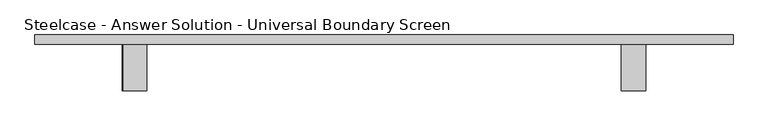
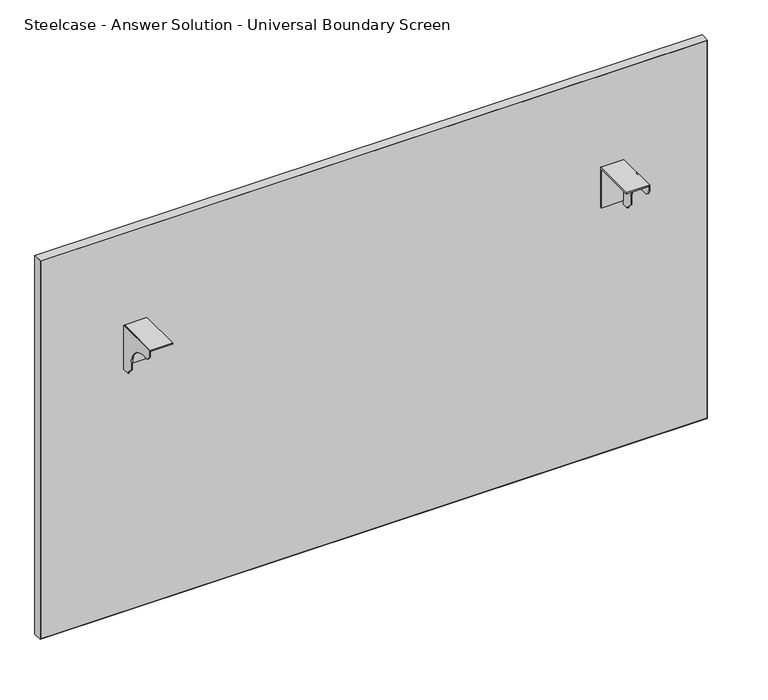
"""IFC4 building model written with IfcOpenShell, lengths in millimetres: furniture geometry, Steelcase - Answer Solution - Universal Boundary Screen : 36H x 60W."""

from ifc_helpers import new_model, si_unit, point, frame, frame_2d, origin, place, context, project, spatial, polyline, circle_curve, trimmed, segment, composite_curve, outline, extrude, source, transform, mapped, element, save


def steelcase_answer_solution_universal_boundary_screen_9d3c16bf(model_context):
    return source(origin(), model_context, "Body", "SweptSolid", [
        extrude(outline(polyline([(-103.1670434, 689.3558876), (-103.1670434, 692.1499758), (-1.5668826, 692.1499758), (-1.5668826, 595.5029317), (-4.1079736, 595.5029317), (-4.1079736, 689.3558876), (-103.1670434, 689.3558876)])), frame((1048.2336711, 0.0, 0.0), z_axis=(1.0, 0.0, 0.0), x_axis=(0.0, 1.0, 0.0)), (0.0, 0.0, 1.0), 53.3444116),
        extrude(outline(composite_curve([segment(polyline([(-103.1670434, 679.2814802), (-103.1670434, 692.1499758), (-1.5668826, 692.1499758), (-1.5668826, 586.9634093), (-19.8232934, 586.9634093), (-19.8232934, 589.7574248), (-32.0458032, 601.9799346), (-32.0458032, 615.7814802)]), True, "CONTINUOUS"), segment(trimmed(circle_curve(frame_2d((-82.8458032, 615.7814802)), 50.8), [point((-32.0458032, 615.7814802))], [point((-82.8458032, 666.5814802))], True, "CARTESIAN"), True, "CONTINUOUS"), segment(polyline([(-82.8458032, 666.5814802), (-90.4670434, 666.5814802)]), True, "CONTINUOUS"), segment(trimmed(circle_curve(frame_2d((-90.4670434, 679.2814802)), 12.7), [point((-90.4670434, 666.5814802))], [point((-103.1670434, 679.2814802))], False, "CARTESIAN"), True, "CONTINUOUS")], self_intersect=False)), frame((1099.0328959, 0.0, 0.0), z_axis=(1.0, 0.0, 0.0), x_axis=(0.0, 1.0, 0.0)), (0.0, 0.0, 1.0), 2.5451868),
        extrude(outline(polyline([(-103.1670434, 689.3558876), (-103.1670434, 692.1499758), (-1.5668826, 692.1499758), (-1.5668826, 595.5029317), (-4.1079736, 595.5029317), (-4.1079736, 689.3558876), (-103.1670434, 689.3558876)])), frame((-38.8767306, 0.0, 0.0), z_axis=(1.0, 0.0, 0.0), x_axis=(0.0, 1.0, 0.0)), (0.0, 0.0, 1.0), 50.7992249),
        extrude(outline(composite_curve([segment(polyline([(-103.1670434, 679.2814802), (-103.1670434, 692.1499758), (-1.5668826, 692.1499758), (-1.5668826, 586.9634093), (-19.8232934, 586.9634093), (-19.8232934, 589.7574248), (-32.0458032, 601.9799346), (-32.0458032, 615.7814802)]), True, "CONTINUOUS"), segment(trimmed(circle_curve(frame_2d((-82.8458032, 615.7814802)), 50.8), [point((-32.0458032, 615.7814802))], [point((-82.8458032, 666.5814802))], True, "CARTESIAN"), True, "CONTINUOUS"), segment(polyline([(-82.8458032, 666.5814802), (-90.4670434, 666.5814802)]), True, "CONTINUOUS"), segment(trimmed(circle_curve(frame_2d((-90.4670434, 679.2814802)), 12.7), [point((-90.4670434, 666.5814802))], [point((-103.1670434, 679.2814802))], False, "CARTESIAN"), True, "CONTINUOUS")], self_intersect=False)), frame((-41.4219173, 0.0, 0.0), z_axis=(1.0, 0.0, 0.0), x_axis=(0.0, 1.0, 0.0)), (0.0, 0.0, 1.0), 2.5451868),
        extrude(outline(polyline([(-230.9293422, 18.9055112), (1291.0855076, 18.9055112), (1291.0855076, -1.5668826), (-230.9293422, -1.5668826), (-230.9293422, 18.9055112)])), frame((0.0, 0.0, 1.016), z_axis=(0.0, 0.0, 1.0), x_axis=(1.0, 0.0, 0.0)), (0.0, 0.0, 1.0), 912.3914249),
        extrude(outline(polyline([(914.4, 1292.0780827), (914.4, -231.9219173), (0.0, -231.9219173), (0.0, 1292.0780827), (914.4, 1292.0780827)]), holes=[polyline([(913.4074249, 1291.0855076), (1.016, 1291.0855076), (1.016, -230.9293422), (913.4074249, -230.9293422), (913.4074249, 1291.0855076)])]), frame((0.0, -1.5668826, 0.0), z_axis=(0.0, 1.0, 0.0), x_axis=(0.0, 0.0, 1.0)), (0.0, 0.0, 1.0), 20.4723938),
    ])


if __name__ == "__main__":
    model = new_model("IFC4")
    model_context = context("Model", 3, world=origin())
    ifc_project = project(units=[si_unit("LENGTHUNIT", "METRE", prefix="MILLI")], contexts=[model_context])
    site = spatial("IfcSite", under=ifc_project)
    building = spatial("IfcBuilding", under=site)
    placement = place(None, origin())
    steelcase_answer_solution_universal_boundary_screen_shape = steelcase_answer_solution_universal_boundary_screen_9d3c16bf(model_context)
    element("IfcFurniture", 1, ObjectType="Steelcase - Answer Solution - Universal Boundary Screen : 36H x 60W", at=placement, inside=building, context=model_context, shape_type="MappedRepresentation", body=[
        mapped(steelcase_answer_solution_universal_boundary_screen_shape, transform((0.0, 0.0, 0.0), x_axis=(1.0, 0.0, 0.0), y_axis=(0.0, 1.0, 0.0), z_axis=(0.0, 0.0, 1.0))),
    ])
    save(model, "model.ifc")
